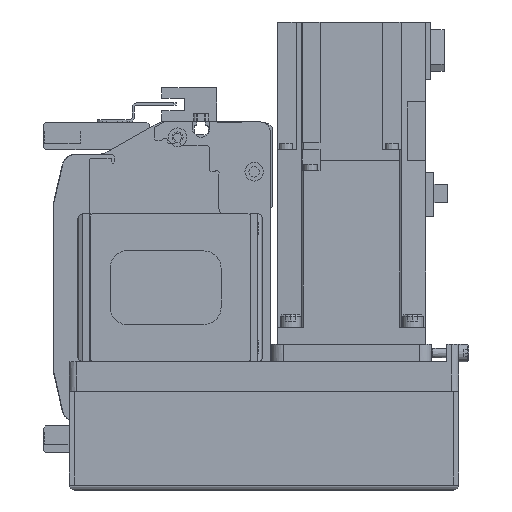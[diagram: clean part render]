
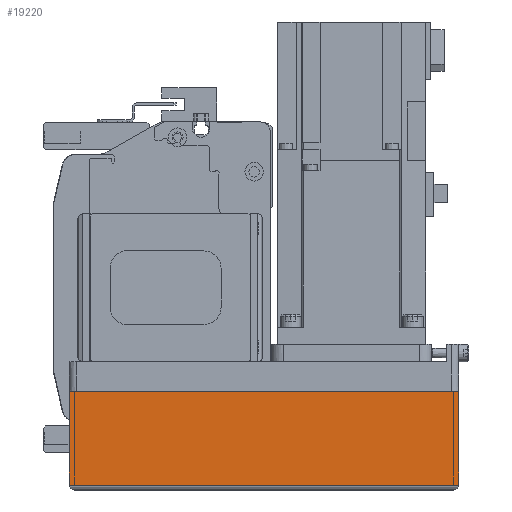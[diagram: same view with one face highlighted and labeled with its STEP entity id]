
A CAD part, left-side view. The second image highlights one B-rep face of the part: STEP entity #19220.
In plain terms, the highlighted planar face has unit normal (-1, 0, 0) as drawn and (0, 1, 0) by its records, which use the part's own axes.
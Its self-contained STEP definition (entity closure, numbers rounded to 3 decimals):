
#2952=ORIENTED_EDGE('',*,*,#7697,.F.);
#2953=ORIENTED_EDGE('',*,*,#7766,.F.);
#2954=ORIENTED_EDGE('',*,*,#7714,.T.);
#2955=ORIENTED_EDGE('',*,*,#7689,.T.);
#7689=EDGE_CURVE('',#10248,#10247,#12213,.T.);
#7697=EDGE_CURVE('',#10255,#10247,#12221,.T.);
#7714=EDGE_CURVE('',#10265,#10248,#12234,.T.);
#7766=EDGE_CURVE('',#10265,#10255,#12263,.T.);
#10247=VERTEX_POINT('',#29452);
#10248=VERTEX_POINT('',#29454);
#10255=VERTEX_POINT('',#29471);
#10265=VERTEX_POINT('',#29502);
#12213=LINE('',#29453,#13913);
#12221=LINE('',#29470,#13921);
#12234=LINE('',#29501,#13934);
#12263=LINE('',#29596,#13963);
#13913=VECTOR('',#23565,1000.);
#13921=VECTOR('',#23577,1000.);
#13934=VECTOR('',#23606,1000.);
#13963=VECTOR('',#23723,1000.);
#15490=EDGE_LOOP('',(#2952,#2953,#2954,#2955));
#17050=FACE_BOUND('',#15490,.T.);
#18439=PLANE('',#20613);
#19220=ADVANCED_FACE('',(#17050),#18439,.T.);
#20613=AXIS2_PLACEMENT_3D('',#29595,#23721,#23722);
#23565=DIRECTION('',(1.,0.,0.));
#23577=DIRECTION('',(0.,0.,1.));
#23606=DIRECTION('',(0.,0.,1.));
#23721=DIRECTION('',(0.,1.,0.));
#23722=DIRECTION('',(0.,0.,1.));
#23723=DIRECTION('',(1.,0.,0.));
#29452=CARTESIAN_POINT('',(0.,39.,-12.1));
#29453=CARTESIAN_POINT('',(-158.,39.,-12.1));
#29454=CARTESIAN_POINT('',(-158.,39.,-12.1));
#29470=CARTESIAN_POINT('',(0.,39.,-50.));
#29471=CARTESIAN_POINT('',(0.,39.,-50.));
#29501=CARTESIAN_POINT('',(-158.,39.,-50.));
#29502=CARTESIAN_POINT('',(-158.,39.,-50.));
#29595=CARTESIAN_POINT('',(-158.,39.,-50.));
#29596=CARTESIAN_POINT('',(-158.,39.,-50.));
